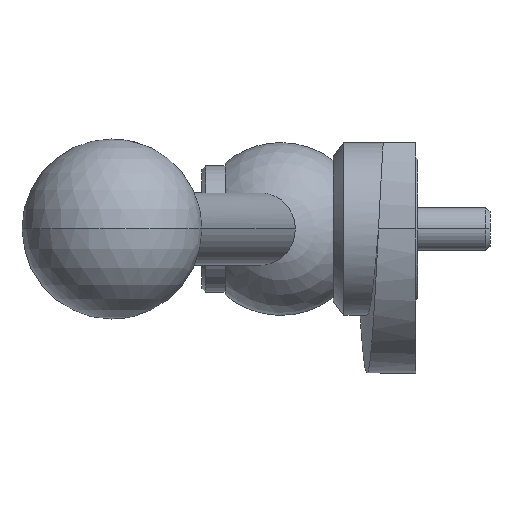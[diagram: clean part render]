
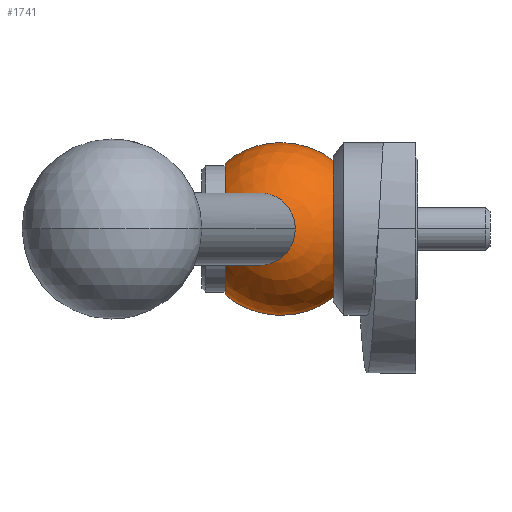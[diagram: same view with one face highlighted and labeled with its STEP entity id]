
A CAD part, left-side view. The second image highlights one B-rep face of the part: STEP entity #1741.
In plain terms, the highlighted spherical face has radius 12 mm.
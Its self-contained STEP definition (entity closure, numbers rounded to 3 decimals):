
#36 = CARTESIAN_POINT ( 'NONE',  ( -10.537, 11.573, 0. ) ) ;
#67 = CARTESIAN_POINT ( 'NONE',  ( 0., 1.5, -9.562 ) ) ;
#99 = CARTESIAN_POINT ( 'NONE',  ( -10.537, 11.573, 0. ) ) ;
#112 = CIRCLE ( 'NONE', #2005, 5. ) ;
#113 = CARTESIAN_POINT ( 'NONE',  ( -9.243, 16.403, 0. ) ) ;
#150 = EDGE_CURVE ( 'NONE', #607, #668, #276, .T. ) ;
#164 = CIRCLE ( 'NONE', #2023, 12. ) ;
#181 = EDGE_LOOP ( 'NONE', ( #1961, #1703 ) ) ;
#221 = EDGE_CURVE ( 'NONE', #792, #1338, #664, .T. ) ;
#276 = CIRCLE ( 'NONE', #1316, 5. ) ;
#363 = ORIENTED_EDGE ( 'NONE', *, *, #1296, .T. ) ;
#387 = CARTESIAN_POINT ( 'NONE',  ( 0., 16.5, 0. ) ) ;
#394 = AXIS2_PLACEMENT_3D ( 'NONE', #1820, #1497, #1475 ) ;
#402 = EDGE_CURVE ( 'NONE', #668, #607, #112, .T. ) ;
#475 = VERTEX_POINT ( 'NONE', #1749 ) ;
#499 = DIRECTION ( 'NONE',  ( 0., -1., 0. ) ) ;
#523 = ORIENTED_EDGE ( 'NONE', *, *, #221, .F. ) ;
#559 = FACE_OUTER_BOUND ( 'NONE', #610, .T. ) ;
#607 = VERTEX_POINT ( 'NONE', #113 ) ;
#610 = EDGE_LOOP ( 'NONE', ( #363, #2008, #523, #1187 ) ) ;
#664 = CIRCLE ( 'NONE', #1699, 9.562 ) ;
#668 = VERTEX_POINT ( 'NONE', #1327 ) ;
#723 = DIRECTION ( 'NONE',  ( 0.259, 0.966, 0. ) ) ;
#792 = VERTEX_POINT ( 'NONE', #1678 ) ;
#798 = DIRECTION ( 'NONE',  ( 0., 0., -1. ) ) ;
#799 = DIRECTION ( 'NONE',  ( 0.966, -0.259, 0. ) ) ;
#863 = CARTESIAN_POINT ( 'NONE',  ( 0., 8.75, 0. ) ) ;
#910 = EDGE_CURVE ( 'NONE', #475, #792, #1414, .T. ) ;
#934 = DIRECTION ( 'NONE',  ( 1., 0., 0. ) ) ;
#956 = DIRECTION ( 'NONE',  ( 0., -1., 0. ) ) ;
#1004 = FACE_BOUND ( 'NONE', #181, .T. ) ;
#1140 = DIRECTION ( 'NONE',  ( 0., 0., -1. ) ) ;
#1147 = AXIS2_PLACEMENT_3D ( 'NONE', #1746, #934, #798 ) ;
#1187 = ORIENTED_EDGE ( 'NONE', *, *, #910, .F. ) ;
#1191 = SPHERICAL_SURFACE ( 'NONE', #394, 12. ) ;
#1296 = EDGE_CURVE ( 'NONE', #475, #1670, #1542, .T. ) ;
#1316 = AXIS2_PLACEMENT_3D ( 'NONE', #36, #799, #2025 ) ;
#1327 = CARTESIAN_POINT ( 'NONE',  ( -11.831, 6.744, 0. ) ) ;
#1338 = VERTEX_POINT ( 'NONE', #67 ) ;
#1414 = CIRCLE ( 'NONE', #1147, 12. ) ;
#1475 = DIRECTION ( 'NONE',  ( 0., 0., 1. ) ) ;
#1497 = DIRECTION ( 'NONE',  ( -1., 0., 0. ) ) ;
#1542 = CIRCLE ( 'NONE', #1807, 9.162 ) ;
#1645 = DIRECTION ( 'NONE',  ( 0.966, -0.259, 0. ) ) ;
#1670 = VERTEX_POINT ( 'NONE', #1978 ) ;
#1678 = CARTESIAN_POINT ( 'NONE',  ( 0., 1.5, 9.562 ) ) ;
#1690 = EDGE_CURVE ( 'NONE', #1670, #1338, #164, .T. ) ;
#1699 = AXIS2_PLACEMENT_3D ( 'NONE', #1878, #499, #1737 ) ;
#1703 = ORIENTED_EDGE ( 'NONE', *, *, #402, .T. ) ;
#1737 = DIRECTION ( 'NONE',  ( 0., 0., -1. ) ) ;
#1741 = ADVANCED_FACE ( 'NONE', ( #1004, #559 ), #1191, .T. ) ;
#1746 = CARTESIAN_POINT ( 'NONE',  ( 0., 8.75, 0. ) ) ;
#1749 = CARTESIAN_POINT ( 'NONE',  ( 0., 16.5, 9.162 ) ) ;
#1807 = AXIS2_PLACEMENT_3D ( 'NONE', #387, #956, #1140 ) ;
#1814 = DIRECTION ( 'NONE',  ( -1., 0., 0. ) ) ;
#1820 = CARTESIAN_POINT ( 'NONE',  ( 0., 8.75, 0. ) ) ;
#1878 = CARTESIAN_POINT ( 'NONE',  ( 0., 1.5, 0. ) ) ;
#1958 = DIRECTION ( 'NONE',  ( 0., 0., 1. ) ) ;
#1961 = ORIENTED_EDGE ( 'NONE', *, *, #150, .T. ) ;
#1978 = CARTESIAN_POINT ( 'NONE',  ( 0., 16.5, -9.162 ) ) ;
#2005 = AXIS2_PLACEMENT_3D ( 'NONE', #99, #1645, #723 ) ;
#2008 = ORIENTED_EDGE ( 'NONE', *, *, #1690, .T. ) ;
#2023 = AXIS2_PLACEMENT_3D ( 'NONE', #863, #1814, #1958 ) ;
#2025 = DIRECTION ( 'NONE',  ( 0.259, 0.966, 0. ) ) ;
